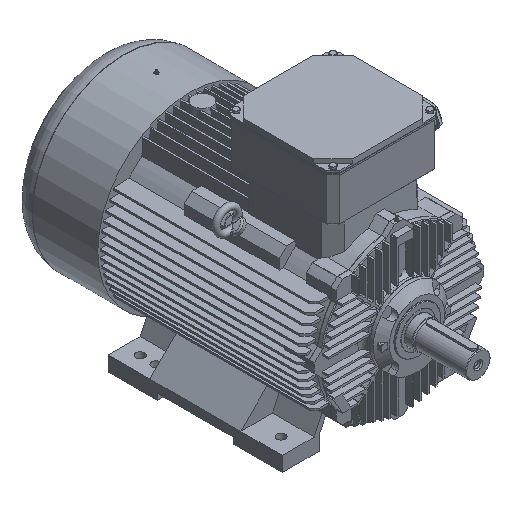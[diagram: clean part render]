
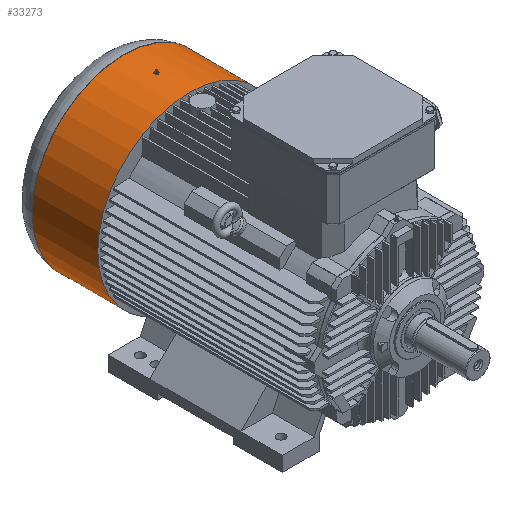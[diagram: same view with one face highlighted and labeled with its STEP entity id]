
A CAD part, isometric view. The second image highlights one B-rep face of the part: STEP entity #33273.
In plain terms, the highlighted cylindrical face has radius 298 mm (diameter 596 mm), a full revolution.
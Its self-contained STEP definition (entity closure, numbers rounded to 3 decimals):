
#803=CYLINDRICAL_SURFACE('',#35403,298.);
#894=ELLIPSE('',#35372,5439.988,298.);
#895=ELLIPSE('',#35374,355.891,298.);
#896=ELLIPSE('',#35376,334.038,298.);
#897=ELLIPSE('',#35378,5439.988,298.);
#898=ELLIPSE('',#35380,355.891,298.);
#899=ELLIPSE('',#35382,334.038,298.);
#2961=LINE('',#51065,#5106);
#2962=LINE('',#51067,#5107);
#5106=VECTOR('',#41603,1000.);
#5107=VECTOR('',#41606,1000.);
#11457=ORIENTED_EDGE('',*,*,#15125,.T.);
#11458=ORIENTED_EDGE('',*,*,#15126,.F.);
#11459=ORIENTED_EDGE('',*,*,#15115,.T.);
#11460=ORIENTED_EDGE('',*,*,#15112,.T.);
#11461=ORIENTED_EDGE('',*,*,#15117,.T.);
#11462=ORIENTED_EDGE('',*,*,#15109,.T.);
#11463=ORIENTED_EDGE('',*,*,#15107,.T.);
#11464=ORIENTED_EDGE('',*,*,#15104,.T.);
#11465=ORIENTED_EDGE('',*,*,#15116,.T.);
#11466=ORIENTED_EDGE('',*,*,#15100,.T.);
#15100=EDGE_CURVE('',#17471,#17472,#894,.F.);
#15104=EDGE_CURVE('',#17474,#17475,#895,.F.);
#15107=EDGE_CURVE('',#17476,#17474,#896,.F.);
#15109=EDGE_CURVE('',#17477,#17476,#897,.F.);
#15112=EDGE_CURVE('',#17479,#17480,#898,.F.);
#15115=EDGE_CURVE('',#17472,#17479,#899,.F.);
#15116=EDGE_CURVE('',#17475,#17471,#2961,.T.);
#15117=EDGE_CURVE('',#17480,#17477,#2962,.F.);
#15125=EDGE_CURVE('',#17488,#17488,#18423,.T.);
#15126=EDGE_CURVE('',#17489,#17489,#18424,.T.);
#17471=VERTEX_POINT('',#51034);
#17472=VERTEX_POINT('',#51035);
#17474=VERTEX_POINT('',#51042);
#17475=VERTEX_POINT('',#51043);
#17476=VERTEX_POINT('',#51048);
#17477=VERTEX_POINT('',#51052);
#17479=VERTEX_POINT('',#51058);
#17480=VERTEX_POINT('',#51059);
#17488=VERTEX_POINT('',#51091);
#17489=VERTEX_POINT('',#51094);
#18423=CIRCLE('',#35400,298.);
#18424=CIRCLE('',#35402,298.);
#19908=EDGE_LOOP('',(#11457));
#19909=EDGE_LOOP('',(#11458));
#19910=EDGE_LOOP('',(#11459,#11460,#11461,#11462,#11463,#11464,#11465,#11466));
#21490=FACE_BOUND('',#19908,.T.);
#21491=FACE_BOUND('',#19909,.T.);
#21492=FACE_BOUND('',#19910,.T.);
#33273=ADVANCED_FACE('',(#21490,#21491,#21492),#803,.T.);
#35372=AXIS2_PLACEMENT_3D('',#51033,#41569,#41570);
#35374=AXIS2_PLACEMENT_3D('',#51041,#41576,#41577);
#35376=AXIS2_PLACEMENT_3D('',#51047,#41582,#41583);
#35378=AXIS2_PLACEMENT_3D('',#51051,#41587,#41588);
#35380=AXIS2_PLACEMENT_3D('',#51057,#41593,#41594);
#35382=AXIS2_PLACEMENT_3D('',#51063,#41599,#41600);
#35400=AXIS2_PLACEMENT_3D('',#51090,#41637,#41638);
#35402=AXIS2_PLACEMENT_3D('',#51093,#41641,#41642);
#35403=AXIS2_PLACEMENT_3D('',#51095,#41643,#41644);
#41569=DIRECTION('',(-0.998,0.055,0.));
#41570=DIRECTION('',(-0.055,-0.998,0.));
#41576=DIRECTION('',(-0.547,-0.837,0.));
#41577=DIRECTION('',(0.837,-0.547,0.));
#41582=DIRECTION('',(0.452,-0.892,0.));
#41583=DIRECTION('',(-0.892,-0.452,0.));
#41587=DIRECTION('',(0.998,-0.055,0.));
#41588=DIRECTION('',(-0.055,-0.998,0.));
#41593=DIRECTION('',(0.547,0.837,0.));
#41594=DIRECTION('',(0.837,-0.547,0.));
#41599=DIRECTION('',(-0.452,0.892,0.));
#41600=DIRECTION('',(-0.892,-0.452,0.));
#41603=DIRECTION('',(0.,-1.,0.));
#41606=DIRECTION('',(0.,-1.,0.));
#41637=DIRECTION('',(0.,-1.,0.));
#41638=DIRECTION('',(0.,0.,1.));
#41641=DIRECTION('',(0.,-1.,0.));
#41642=DIRECTION('',(0.,0.,1.));
#41643=DIRECTION('',(0.,-1.,0.));
#41644=DIRECTION('',(0.,0.,1.));
#51033=CARTESIAN_POINT('',(0.,670.598,0.));
#51034=CARTESIAN_POINT('',(5.459,770.097,297.95));
#51035=CARTESIAN_POINT('',(5.318,767.528,297.953));
#51041=CARTESIAN_POINT('',(0.,777.568,0.));
#51042=CARTESIAN_POINT('',(0.348,777.341,298.));
#51043=CARTESIAN_POINT('',(5.459,774.005,297.95));
#51047=CARTESIAN_POINT('',(0.,777.165,0.));
#51048=CARTESIAN_POINT('',(-5.318,774.472,297.953));
#51051=CARTESIAN_POINT('',(0.,871.402,0.));
#51052=CARTESIAN_POINT('',(-5.459,771.903,297.95));
#51057=CARTESIAN_POINT('',(0.,764.432,0.));
#51058=CARTESIAN_POINT('',(-0.348,764.659,298.));
#51059=CARTESIAN_POINT('',(-5.459,767.995,297.95));
#51063=CARTESIAN_POINT('',(0.,764.835,0.));
#51065=CARTESIAN_POINT('',(5.459,663.,297.95));
#51067=CARTESIAN_POINT('',(-5.459,663.,297.95));
#51090=CARTESIAN_POINT('',(0.,876.,0.));
#51091=CARTESIAN_POINT('',(0.,876.,298.));
#51093=CARTESIAN_POINT('',(0.,663.,0.));
#51094=CARTESIAN_POINT('',(0.,663.,298.));
#51095=CARTESIAN_POINT('',(0.,663.,0.));
